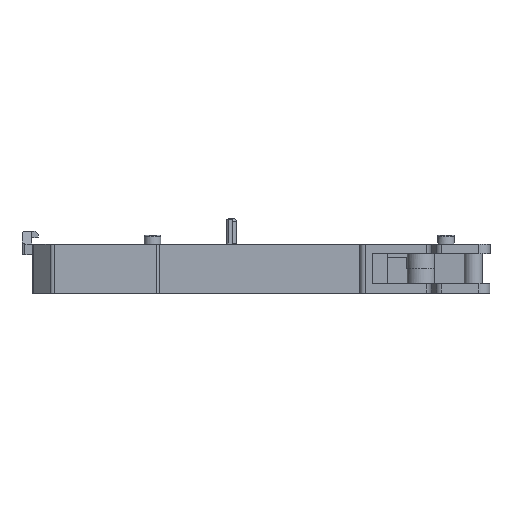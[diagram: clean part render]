
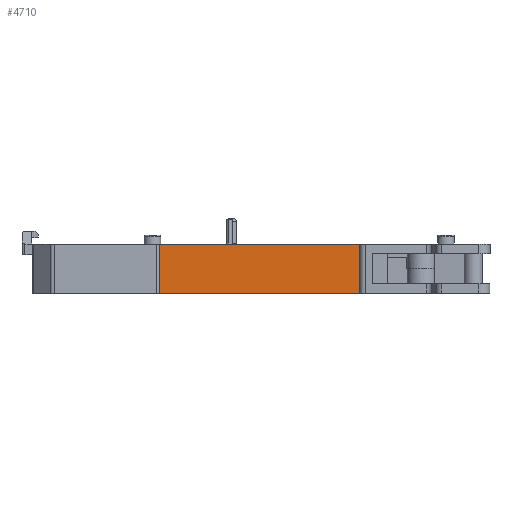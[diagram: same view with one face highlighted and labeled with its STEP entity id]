
A CAD part, front view. The second image highlights one B-rep face of the part: STEP entity #4710.
In plain terms, the highlighted planar face has unit normal (0, -1, 0).
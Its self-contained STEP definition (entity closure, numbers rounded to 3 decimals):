
#461 = ORIENTED_EDGE ( 'NONE', *, *, #32856, .F. ) ;
#1767 = PLANE ( 'NONE',  #35708 ) ;
#1950 = VERTEX_POINT ( 'NONE', #42396 ) ;
#3259 = CARTESIAN_POINT ( 'NONE',  ( 31.31, -12.612, 77.3 ) ) ;
#4190 = CARTESIAN_POINT ( 'NONE',  ( 31.31, -12.612, 86.05 ) ) ;
#4710 = ADVANCED_FACE ( 'NONE', ( #8708 ), #1767, .F. ) ;
#5038 = VECTOR ( 'NONE', #43679, 1000. ) ;
#7139 = LINE ( 'NONE', #44448, #21877 ) ;
#8708 = FACE_OUTER_BOUND ( 'NONE', #35981, .T. ) ;
#10833 = DIRECTION ( 'NONE',  ( 1., 0., 0. ) ) ;
#11395 = ORIENTED_EDGE ( 'NONE', *, *, #13832, .T. ) ;
#11636 = EDGE_CURVE ( 'NONE', #1950, #38268, #28599, .T. ) ;
#13832 = EDGE_CURVE ( 'NONE', #21900, #29213, #7139, .T. ) ;
#16078 = DIRECTION ( 'NONE',  ( 0., 0., 1. ) ) ;
#16624 = DIRECTION ( 'NONE',  ( 1., 0., 0. ) ) ;
#17106 = CARTESIAN_POINT ( 'NONE',  ( 31.31, -12.612, 73.675 ) ) ;
#17256 = CARTESIAN_POINT ( 'NONE',  ( 31.31, -12.612, 73.675 ) ) ;
#17744 = DIRECTION ( 'NONE',  ( -1., 0., 0. ) ) ;
#20703 = VECTOR ( 'NONE', #16078, 1000. ) ;
#20963 = CARTESIAN_POINT ( 'NONE',  ( 31.31, -12.612, 86.05 ) ) ;
#21877 = VECTOR ( 'NONE', #10833, 1000. ) ;
#21900 = VERTEX_POINT ( 'NONE', #3259 ) ;
#23738 = CARTESIAN_POINT ( 'NONE',  ( 67.01, -12.612, 73.675 ) ) ;
#28599 = LINE ( 'NONE', #20963, #35199 ) ;
#29213 = VERTEX_POINT ( 'NONE', #34361 ) ;
#31448 = ORIENTED_EDGE ( 'NONE', *, *, #31502, .T. ) ;
#31502 = EDGE_CURVE ( 'NONE', #29213, #1950, #34610, .T. ) ;
#32856 = EDGE_CURVE ( 'NONE', #21900, #38268, #36508, .T. ) ;
#34361 = CARTESIAN_POINT ( 'NONE',  ( 67.01, -12.612, 77.3 ) ) ;
#34610 = LINE ( 'NONE', #23738, #20703 ) ;
#35199 = VECTOR ( 'NONE', #17744, 1000. ) ;
#35708 = AXIS2_PLACEMENT_3D ( 'NONE', #17106, #46770, #16624 ) ;
#35981 = EDGE_LOOP ( 'NONE', ( #11395, #31448, #38900, #461 ) ) ;
#36508 = LINE ( 'NONE', #17256, #5038 ) ;
#38268 = VERTEX_POINT ( 'NONE', #4190 ) ;
#38900 = ORIENTED_EDGE ( 'NONE', *, *, #11636, .T. ) ;
#42396 = CARTESIAN_POINT ( 'NONE',  ( 67.01, -12.612, 86.05 ) ) ;
#43679 = DIRECTION ( 'NONE',  ( 0., 0., 1. ) ) ;
#44448 = CARTESIAN_POINT ( 'NONE',  ( 48.51, -12.612, 77.3 ) ) ;
#46770 = DIRECTION ( 'NONE',  ( 0., 1., 0. ) ) ;
